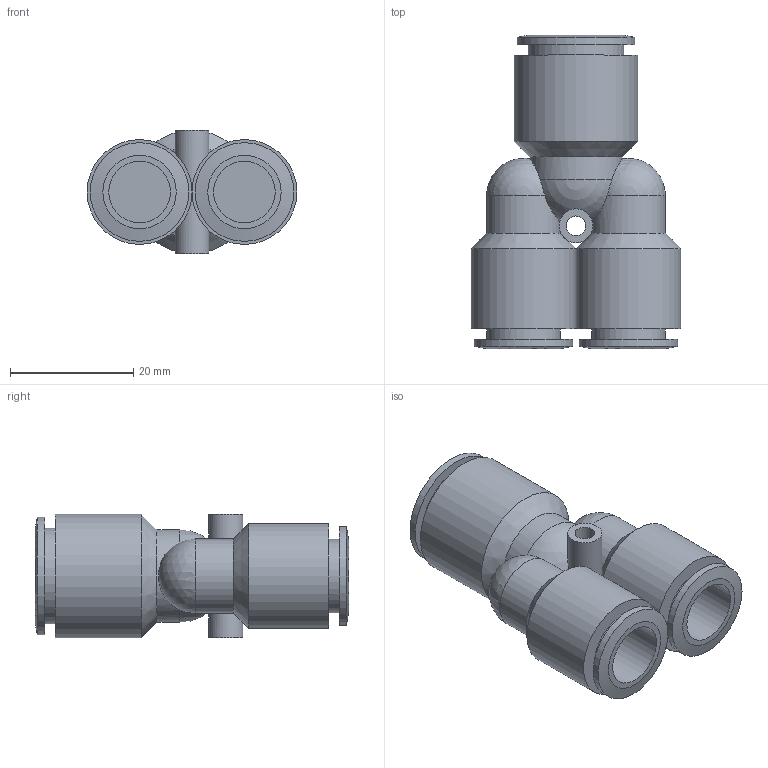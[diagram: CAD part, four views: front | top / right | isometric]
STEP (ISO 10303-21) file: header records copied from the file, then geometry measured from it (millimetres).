
FILE_DESCRIPTION((''),'2;1');
FILE_NAME('C:\Documents and Settings\rivolro1\Documenti\copia di Raccordi\PLASTICA\T23XXXX\T231012.stp','2007-11-02T14:44:53',('Rivolro1'),(''),'Autodesk Inventor 2008','Autodesk Inventor 2008','');
FILE_SCHEMA(('AUTOMOTIVE_DESIGN { 1 0 10303 214 1 1 1 1 }'));
Length unit declared in the file: millimetre
Products named in the file (1): T231012
Bounding box: 34 x 50.8 x 20 mm (x, y, z)
Volume: 12573.5 mm3; surface area: 7601.2 mm2
Topology: 1 solids, 1 shells, 41 faces, 99 edges, 60 vertices
Faces by surface type: cylinder 16, plane 14, cone 6, sphere 4, bspline 1
Full cylindrical faces by diameter (mm): 5.5 x1, 10 x2, 11.9 x2, 12 x3, 15 x1, 15.5 x1, 16 x2, 17 x2, 19 x1, 20 x1
Entity records: 1401 total; most frequent: CARTESIAN_POINT 533, DIRECTION 180, ORIENTED_EDGE 124, AXIS2_PLACEMENT_3D 89, EDGE_LOOP 78, EDGE_CURVE 62, VERTEX_POINT 52, CIRCLE 48
